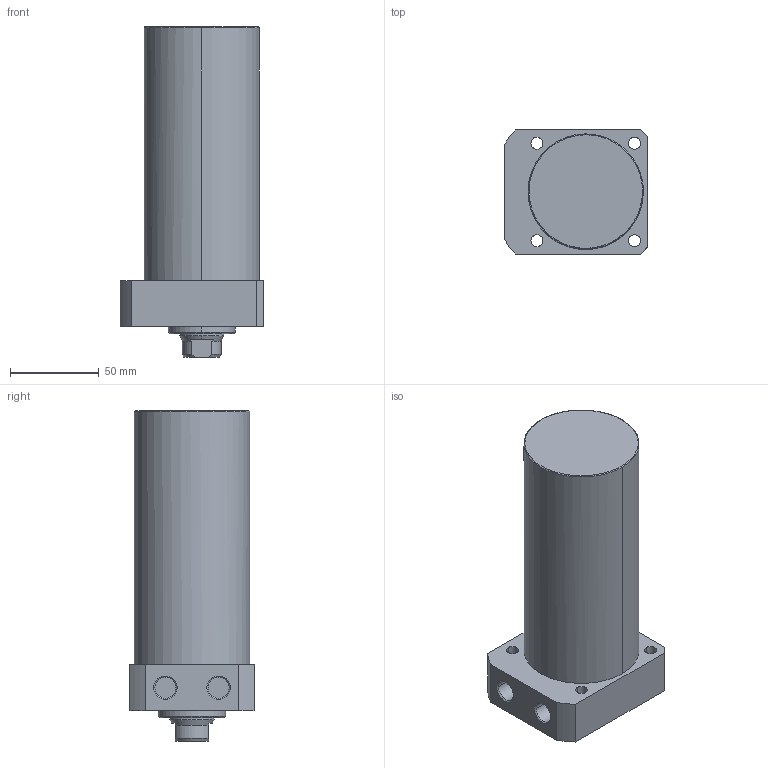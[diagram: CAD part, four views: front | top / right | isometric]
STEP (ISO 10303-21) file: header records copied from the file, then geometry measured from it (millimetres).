
FILE_DESCRIPTION((' '),'2;1');
FILE_NAME( 'TLLR-065CA-110.STEP.stp', '2025-10-24T16:34:54', (' '), ('--- Datakit www.datakit.com---'), ' Datakit CrossCadWare V2024.1 Dec 21 2023', 'Mastercam 2025', ' ');
FILE_SCHEMA(('AUTOMOTIVE_DESIGN { 1 0 10303 214 1 1 1 1 }'));
Length unit declared in the file: millimetre
Products named in the file (1): TLLR-065CA-110
Bounding box: 81 x 70 x 186 mm (x, y, z)
Volume: 618490.9 mm3; surface area: 53630.9 mm2
Topology: 1 solids, 1 shells, 63 faces, 179 edges, 124 vertices
Faces by surface type: cylinder 28, plane 19, cone 14, torus 2
Entity records: 2174 total; most frequent: DIRECTION 402, CARTESIAN_POINT 397, ORIENTED_EDGE 354, EDGE_CURVE 177, AXIS2_PLACEMENT_3D 169, VERTEX_POINT 124, CIRCLE 105, EDGE_LOOP 79
